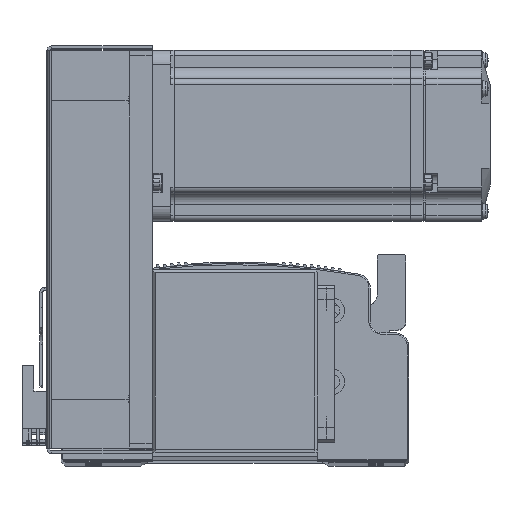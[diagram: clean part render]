
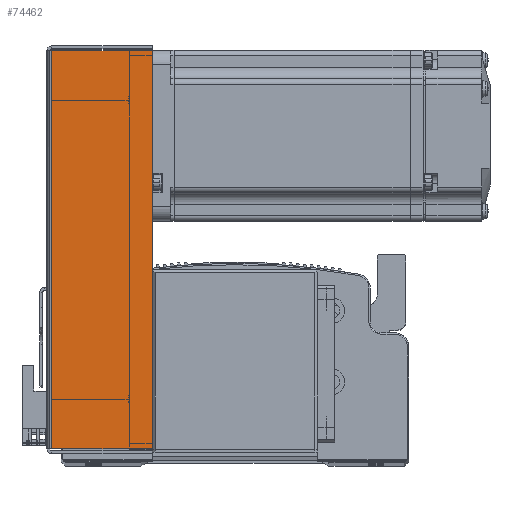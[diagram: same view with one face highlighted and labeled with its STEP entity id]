
A CAD part, top view. The second image highlights one B-rep face of the part: STEP entity #74462.
In plain terms, the highlighted planar face has unit normal (0, 0, 1) as drawn and (0, 0, -1) by its records, which use the part's own axes.
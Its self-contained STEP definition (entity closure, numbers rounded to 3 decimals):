
#12372 = AXIS2_PLACEMENT_3D ( 'NONE', #78158, #78196, #78160 ) ;
#27158 = CARTESIAN_POINT ( 'NONE',  ( 0., 36., -33.5 ) ) ;
#27180 = DIRECTION ( 'NONE',  ( 1., 0., 0. ) ) ;
#27353 = CARTESIAN_POINT ( 'NONE',  ( 71.5, 0.737, -33.5 ) ) ;
#27362 = DIRECTION ( 'NONE',  ( 1., 0., 0. ) ) ;
#34507 = CARTESIAN_POINT ( 'NONE',  ( 69.793, 0., -33.5 ) ) ;
#34508 = DIRECTION ( 'NONE',  ( 0., 1., 0. ) ) ;
#34511 = CARTESIAN_POINT ( 'NONE',  ( -69.793, 0., -33.5 ) ) ;
#34516 = DIRECTION ( 'NONE',  ( 0., 1., 0. ) ) ;
#35188 = VECTOR ( 'NONE', #34508, 1000. ) ;
#35212 = LINE ( 'NONE', #27158, #35218 ) ;
#35216 = LINE ( 'NONE', #34511, #35219 ) ;
#35218 = VECTOR ( 'NONE', #27180, 1000. ) ;
#35219 = VECTOR ( 'NONE', #34516, 1000. ) ;
#35224 = LINE ( 'NONE', #34507, #35188 ) ;
#35314 = LINE ( 'NONE', #27353, #35371 ) ;
#35371 = VECTOR ( 'NONE', #27362, 1000. ) ;
#38191 = VERTEX_POINT ( 'NONE', #83782 ) ;
#38276 = VERTEX_POINT ( 'NONE', #83908 ) ;
#38303 = VERTEX_POINT ( 'NONE', #83892 ) ;
#38306 = VERTEX_POINT ( 'NONE', #83920 ) ;
#54560 = EDGE_LOOP ( 'NONE', ( #86555, #86507, #86581, #86517 ) ) ;
#69397 = EDGE_CURVE ( 'NONE', #38191, #38306, #35224, .T. ) ;
#69399 = EDGE_CURVE ( 'NONE', #38303, #38276, #35216, .T. ) ;
#69423 = EDGE_CURVE ( 'NONE', #38276, #38306, #35212, .T. ) ;
#69503 = EDGE_CURVE ( 'NONE', #38303, #38191, #35314, .T. ) ;
#74462 = ADVANCED_FACE ( 'NONE', ( #78300 ), #78167, .F. ) ;
#78158 = CARTESIAN_POINT ( 'NONE',  ( 0., 0., -33.5 ) ) ;
#78160 = DIRECTION ( 'NONE',  ( 0., -1., 0. ) ) ;
#78167 = PLANE ( 'NONE',  #12372 ) ;
#78196 = DIRECTION ( 'NONE',  ( 0., 0., 1. ) ) ;
#78300 = FACE_OUTER_BOUND ( 'NONE', #54560, .T. ) ;
#83782 = CARTESIAN_POINT ( 'NONE',  ( 69.793, 0.737, -33.5 ) ) ;
#83892 = CARTESIAN_POINT ( 'NONE',  ( -69.793, 0.737, -33.5 ) ) ;
#83908 = CARTESIAN_POINT ( 'NONE',  ( -69.793, 36., -33.5 ) ) ;
#83920 = CARTESIAN_POINT ( 'NONE',  ( 69.793, 36., -33.5 ) ) ;
#86507 = ORIENTED_EDGE ( 'NONE', *, *, #69399, .T. ) ;
#86517 = ORIENTED_EDGE ( 'NONE', *, *, #69397, .F. ) ;
#86555 = ORIENTED_EDGE ( 'NONE', *, *, #69503, .F. ) ;
#86581 = ORIENTED_EDGE ( 'NONE', *, *, #69423, .T. ) ;
